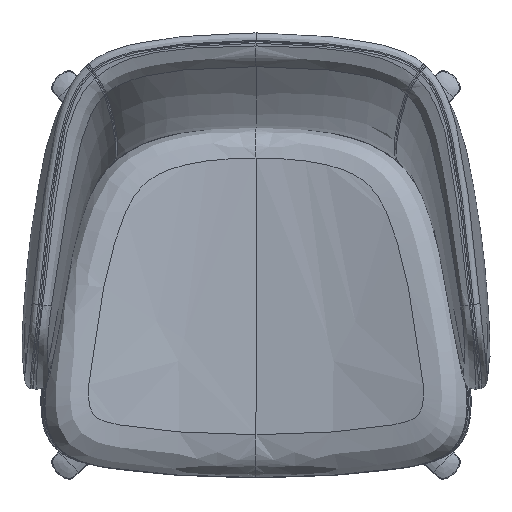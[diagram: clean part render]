
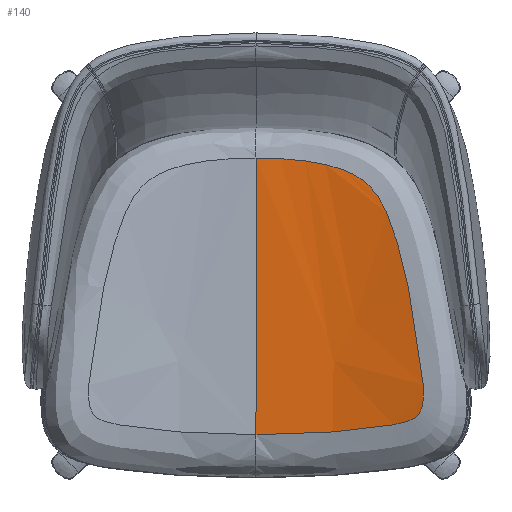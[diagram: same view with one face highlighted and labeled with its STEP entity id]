
A CAD part, top view. The second image highlights one B-rep face of the part: STEP entity #140.
In plain terms, the highlighted free-form (B-spline) face has degree [2, 1] with [3, 2] control points.
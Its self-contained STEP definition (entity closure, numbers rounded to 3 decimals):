
#140=ADVANCED_FACE('',(#374),#3197,.T.);
#374=FACE_OUTER_BOUND('',#608,.T.);
#608=EDGE_LOOP('',(#862,#863));
#862=ORIENTED_EDGE('',*,*,#1836,.T.);
#863=ORIENTED_EDGE('',*,*,#1835,.F.);
#1835=EDGE_CURVE('',#2891,#2892,#2575,.T.);
#1836=EDGE_CURVE('',#2891,#2892,#2576,.T.);
#2575=B_SPLINE_CURVE_WITH_KNOTS('',1,(#5707,#5708),.UNSPECIFIED.,.F.,.F.,
(2,2),(85.522,440.522),.UNSPECIFIED.);
#2576=B_SPLINE_CURVE_WITH_KNOTS('',3,(#5709,#5710,#5711,#5712,#5713,#5714,
#5715,#5716,#5717,#5718,#5719,#5720,#5721,#5722,#5723,#5724,#5725,#5726,
#5727,#5728,#5729,#5730,#5731,#5732,#5733,#5734,#5735,#5736,#5737,#5738,
#5739,#5740,#5741,#5742,#5743,#5744,#5745,#5746,#5747,#5748,#5749,#5750,
#5751,#5752,#5753,#5754,#5755,#5756,#5757,#5758,#5759,#5760,#5761,#5762,
#5763,#5764,#5765,#5766,#5767,#5768,#5769,#5770,#5771,#5772,#5773),
 .UNSPECIFIED.,.F.,.F.,(4,2,2,2,2,1,1,1,2,2,2,2,2,2,1,1,1,2,2,2,2,2,2,1,
1,1,2,2,1,1,1,2,2,2,1,1,1,2,2,4),(0.,104.587,156.88,183.027,
196.1,202.637,209.173,215.71,229.003,
238.918,248.832,258.747,268.662,278.577,
283.534,288.491,293.449,302.826,317.162,
345.832,403.172,460.512,489.182,503.517,
517.852,532.187,552.207,569.385,578.515,
586.562,594.609,602.656,618.75,634.843,
642.89,650.937,658.984,679.714,708.491,
766.045),.UNSPECIFIED.);
#2891=VERTEX_POINT('',#5701);
#2892=VERTEX_POINT('',#5702);
#3197=(
BOUNDED_SURFACE()
B_SPLINE_SURFACE(2,1,((#4791,#4792),(#4793,#4794),(#4795,#4796)),
 .UNSPECIFIED.,.F.,.F.,.F.)
B_SPLINE_SURFACE_WITH_KNOTS((3,3),(2,2),(0.,564.196),(0.,519.874),
 .UNSPECIFIED.)
GEOMETRIC_REPRESENTATION_ITEM()
RATIONAL_B_SPLINE_SURFACE(((1.,1.),(0.904,0.904),
(1.,1.)))
REPRESENTATION_ITEM('')
SURFACE()
);
#4791=CARTESIAN_POINT('',(-273.052,-291.373,521.171));
#4792=CARTESIAN_POINT('',(-273.052,228.502,521.171));
#4793=CARTESIAN_POINT('',(0.,-291.373,392.364));
#4794=CARTESIAN_POINT('',(0.,228.502,392.364));
#4795=CARTESIAN_POINT('',(273.052,-291.373,521.171));
#4796=CARTESIAN_POINT('',(273.052,228.502,521.171));
#5701=CARTESIAN_POINT('',(0.,-205.851,460.));
#5702=CARTESIAN_POINT('',(0.,149.149,460.));
#5707=CARTESIAN_POINT('',(0.,-205.851,460.));
#5708=CARTESIAN_POINT('',(0.,149.149,460.));
#5709=CARTESIAN_POINT('',(0.,-205.851,460.));
#5710=CARTESIAN_POINT('',(32.595,-205.851,459.998));
#5711=CARTESIAN_POINT('',(65.191,-204.707,462.498));
#5712=CARTESIAN_POINT('',(113.393,-201.245,469.916));
#5713=CARTESIAN_POINT('',(129.348,-199.803,472.998));
#5714=CARTESIAN_POINT('',(152.995,-196.948,478.504));
#5715=CARTESIAN_POINT('',(160.828,-195.874,480.485));
#5716=CARTESIAN_POINT('',(172.477,-193.946,483.666));
#5717=CARTESIAN_POINT('',(176.325,-193.264,484.756));
#5718=CARTESIAN_POINT('',(182.126,-192.091,486.459));
#5719=CARTESIAN_POINT('',(185.728,-191.337,487.529));
#5720=CARTESIAN_POINT('',(192.209,-189.573,489.538));
#5721=CARTESIAN_POINT('',(195.735,-188.386,490.661));
#5722=CARTESIAN_POINT('',(199.266,-186.96,491.807));
#5723=CARTESIAN_POINT('',(202.779,-184.998,492.972));
#5724=CARTESIAN_POINT('',(204.261,-184.016,493.469));
#5725=CARTESIAN_POINT('',(206.947,-181.74,494.381));
#5726=CARTESIAN_POINT('',(208.168,-180.437,494.8));
#5727=CARTESIAN_POINT('',(210.246,-177.534,495.519));
#5728=CARTESIAN_POINT('',(211.107,-175.946,495.819));
#5729=CARTESIAN_POINT('',(212.491,-172.616,496.305));
#5730=CARTESIAN_POINT('',(213.019,-170.876,496.491));
#5731=CARTESIAN_POINT('',(213.834,-167.346,496.779));
#5732=CARTESIAN_POINT('',(214.124,-165.534,496.883));
#5733=CARTESIAN_POINT('',(214.453,-162.865,496.999));
#5734=CARTESIAN_POINT('',(214.64,-160.854,497.066));
#5735=CARTESIAN_POINT('',(214.8,-158.871,497.123));
#5736=CARTESIAN_POINT('',(215.033,-151.876,497.206));
#5737=CARTESIAN_POINT('',(214.909,-147.514,497.162));
#5738=CARTESIAN_POINT('',(214.619,-139.821,497.058));
#5739=CARTESIAN_POINT('',(214.314,-135.233,496.95));
#5740=CARTESIAN_POINT('',(213.152,-121.424,496.538));
#5741=CARTESIAN_POINT('',(212.076,-112.257,496.158));
#5742=CARTESIAN_POINT('',(208.37,-84.822,494.865));
#5743=CARTESIAN_POINT('',(205.301,-66.627,493.811));
#5744=CARTESIAN_POINT('',(198.557,-30.368,491.57));
#5745=CARTESIAN_POINT('',(194.856,-12.302,490.369));
#5746=CARTESIAN_POINT('',(188.523,14.609,488.392));
#5747=CARTESIAN_POINT('',(186.28,23.534,487.704));
#5748=CARTESIAN_POINT('',(182.602,36.878,486.601));
#5749=CARTESIAN_POINT('',(180.108,45.581,485.86));
#5750=CARTESIAN_POINT('',(175.69,59.26,484.582));
#5751=CARTESIAN_POINT('',(171.082,71.736,483.283));
#5752=CARTESIAN_POINT('',(167.133,80.889,482.203));
#5753=CARTESIAN_POINT('',(162.426,90.325,480.95));
#5754=CARTESIAN_POINT('',(160.048,94.606,480.329));
#5755=CARTESIAN_POINT('',(155.992,100.878,479.3));
#5756=CARTESIAN_POINT('',(153.227,104.855,478.607));
#5757=CARTESIAN_POINT('',(148.585,110.435,477.481));
#5758=CARTESIAN_POINT('',(144.078,115.015,476.422));
#5759=CARTESIAN_POINT('',(140.78,117.901,475.673));
#5760=CARTESIAN_POINT('',(135.703,121.987,474.543));
#5761=CARTESIAN_POINT('',(132.099,124.439,473.77));
#5762=CARTESIAN_POINT('',(124.593,128.815,472.233));
#5763=CARTESIAN_POINT('',(120.672,130.726,471.466));
#5764=CARTESIAN_POINT('',(114.663,133.23,470.352));
#5765=CARTESIAN_POINT('',(110.528,134.808,469.607));
#5766=CARTESIAN_POINT('',(104.58,136.779,468.59));
#5767=CARTESIAN_POINT('',(93.571,139.98,466.83));
#5768=CARTESIAN_POINT('',(85.134,141.89,465.658));
#5769=CARTESIAN_POINT('',(70.3,144.746,463.813));
#5770=CARTESIAN_POINT('',(61.607,146.002,462.912));
#5771=CARTESIAN_POINT('',(35.337,148.719,460.734));
#5772=CARTESIAN_POINT('',(17.656,149.155,459.999));
#5773=CARTESIAN_POINT('',(0.,149.149,460.));
